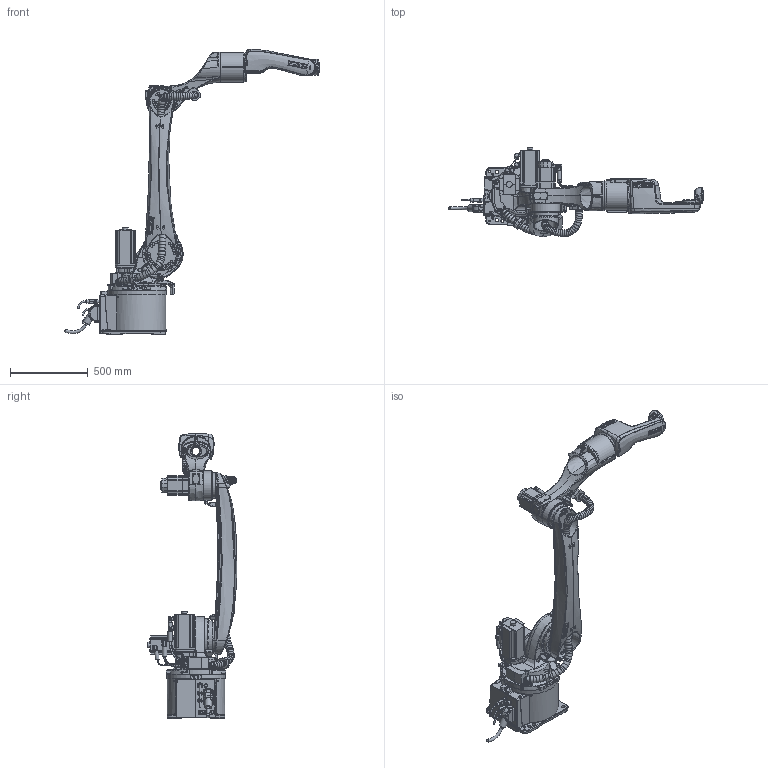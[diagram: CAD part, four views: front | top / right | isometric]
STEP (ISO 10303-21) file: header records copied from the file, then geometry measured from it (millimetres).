
FILE_DESCRIPTION(/* description */ (''),/* implementation_level */ '2;1');
FILE_NAME(/* name */ 'KR8_R2100_arc_HW.stp',/* time_stamp */ '2019-02-22T11:18:52+01:00',/* author */ (''),/* organization */ (''),/* preprocessor_version */ 'ST-DEVELOPER v15',/* originating_system */ 'SIEMENS PLM Software NX 9.0',/* authorisation */ '');
FILE_SCHEMA (('AUTOMOTIVE_DESIGN { 1 0 10303 214 3 1 1 1 }'));
Products named in the file (1): Grep19903787bkmj
Bounding box: 1640.37 x 578.6 x 1834.55 mm (x, y, z)
Volume: 97146918.2 mm3; surface area: 3721415.8 mm2
Topology: 11 solids, 40 shells, 6211 faces, 15791 edges, 9908 vertices
Faces by surface type: bspline 2142, plane 1656, cylinder 1576, torus 401, extrusion 232, cone 123, sphere 76, revolution 5
Full cylindrical faces by diameter (mm): 0.5 x1, 1 x1, 3.3 x13, 3.98 x1, 4 x21, 4.2 x4, 4.3 x5, 4.5 x4, 4.917 x2, 4.99 x1, 5 x2, 5.5 x8, 6 x22, 6.4 x4, 7 x8, 7.2 x1, 8 x8, 8.4 x2, 8.5 x10, 8.6 x1, 8.7 x1, 8.8 x5, 9 x7, 10 x45, 11.05 x2, 12 x7, 13 x45, 14 x9, 15.7 x3, 16 x24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
Entity records: 306243 total; most frequent: CARTESIAN_POINT 165075, ORIENTED_EDGE 29730, DIRECTION 20194, EDGE_CURVE 14865, VERTEX_POINT 9643, AXIS2_PLACEMENT_3D 8050, EDGE_LOOP 7242, B_SPLINE_CURVE_WITH_KNOTS 6921
